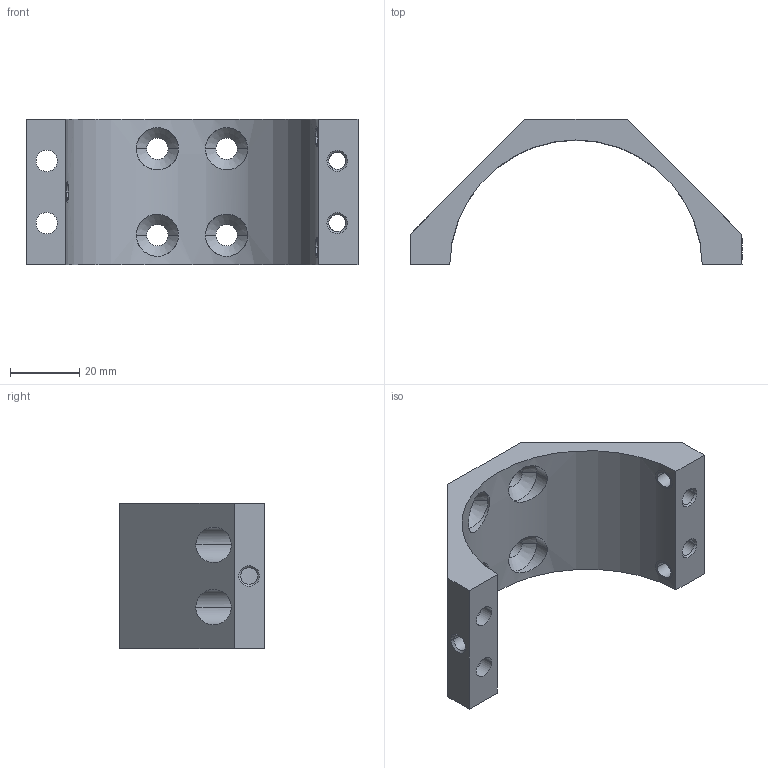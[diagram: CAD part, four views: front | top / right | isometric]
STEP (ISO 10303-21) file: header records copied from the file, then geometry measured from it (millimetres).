
FILE_DESCRIPTION(/* description */ ('VariCAD 2010-3.03 AP-214'),/* implementation_level */ '2;1');
FILE_NAME(/* name */ '0353-19-93',/* time_stamp */ '2011-03-02T15:35:50-07:00',/* author */ (''),/* organization */ (''),/* preprocessor_version */ 'ST-DEVELOPER v12',/* originating_system */ 'VariCAD 2010-3.03; kernel version (20100102)',/* authorisation */ '');
FILE_SCHEMA (('AUTOMOTIVE_DESIGN'));
Length unit declared in the file: millimetre
Products named in the file (1): Part
Bounding box: 96 x 42 x 42 mm (x, y, z)
Volume: 31287.7 mm3; surface area: 17394.9 mm2
Topology: 6 solids, 6 shells, 95 faces, 216 edges, 132 vertices
Faces by surface type: cylinder 62, cone 18, plane 15
Entity records: 3928 total; most frequent: CARTESIAN_POINT 988, DIRECTION 470, ORIENTED_EDGE 432, EDGE_CURVE 216, AXIS2_PLACEMENT_3D 186, VERTEX_POINT 132, EDGE_LOOP 126, PRESENTATION_STYLE_ASSIGNMENT 101
